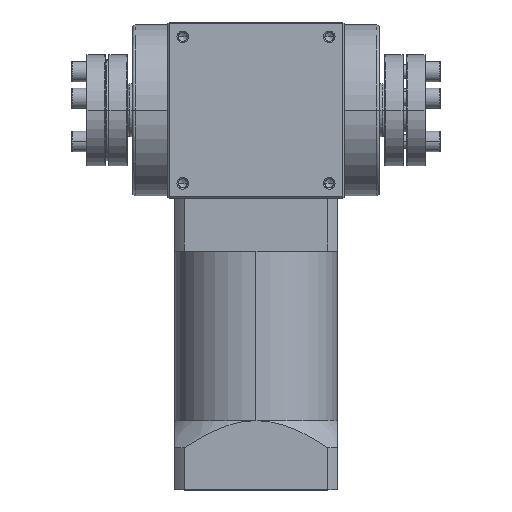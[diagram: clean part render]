
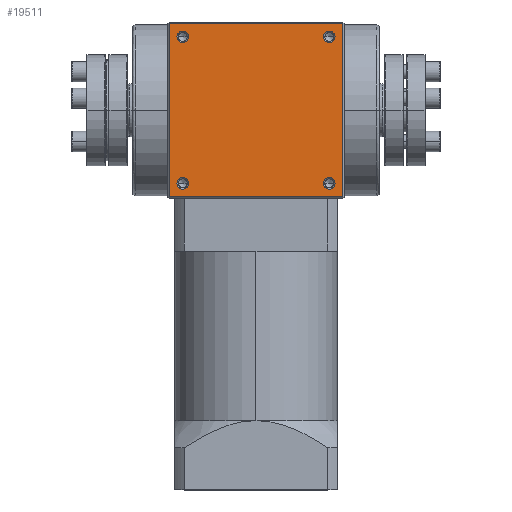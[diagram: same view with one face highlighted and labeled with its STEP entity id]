
A CAD part, top view. The second image highlights one B-rep face of the part: STEP entity #19511.
In plain terms, the highlighted planar face has unit normal (0, 0, 1).
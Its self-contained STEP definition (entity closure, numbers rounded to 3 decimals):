
#170 = CARTESIAN_POINT ( 'NONE',  ( -29.15, -27., 32.5 ) ) ;
#736 = DIRECTION ( 'NONE',  ( 1., 0., 0. ) ) ;
#776 = DIRECTION ( 'NONE',  ( 0., 0., 1. ) ) ;
#795 = LINE ( 'NONE', #6713, #18478 ) ;
#806 = VERTEX_POINT ( 'NONE', #27021 ) ;
#834 = CARTESIAN_POINT ( 'NONE',  ( -27., 27., 32.5 ) ) ;
#1423 = EDGE_CURVE ( 'NONE', #4218, #5649, #22301, .T. ) ;
#1425 = EDGE_CURVE ( 'NONE', #1783, #806, #8834, .T. ) ;
#1444 = DIRECTION ( 'NONE',  ( 0., -1., 0. ) ) ;
#1650 = ORIENTED_EDGE ( 'NONE', *, *, #24154, .F. ) ;
#1740 = EDGE_CURVE ( 'NONE', #22320, #26199, #30922, .T. ) ;
#1783 = VERTEX_POINT ( 'NONE', #1901 ) ;
#1901 = CARTESIAN_POINT ( 'NONE',  ( -29.15, 27., 32.5 ) ) ;
#1926 = CARTESIAN_POINT ( 'NONE',  ( 27., -27., 32.5 ) ) ;
#2052 = CARTESIAN_POINT ( 'NONE',  ( 32., 0., 32.5 ) ) ;
#2299 = CARTESIAN_POINT ( 'NONE',  ( 32., -32., 32.5 ) ) ;
#2522 = DIRECTION ( 'NONE',  ( 1., 0., 0. ) ) ;
#2626 = DIRECTION ( 'NONE',  ( 0., 0., 1. ) ) ;
#2735 = CARTESIAN_POINT ( 'NONE',  ( -27., -27., 32.5 ) ) ;
#2914 = ORIENTED_EDGE ( 'NONE', *, *, #1423, .F. ) ;
#3208 = ORIENTED_EDGE ( 'NONE', *, *, #27757, .F. ) ;
#3333 = DIRECTION ( 'NONE',  ( 0., 0., 1. ) ) ;
#3361 = ORIENTED_EDGE ( 'NONE', *, *, #4438, .T. ) ;
#3696 = ORIENTED_EDGE ( 'NONE', *, *, #11619, .F. ) ;
#3933 = EDGE_CURVE ( 'NONE', #20246, #5388, #28167, .T. ) ;
#4086 = FACE_BOUND ( 'NONE', #30316, .T. ) ;
#4218 = VERTEX_POINT ( 'NONE', #6801 ) ;
#4371 = DIRECTION ( 'NONE',  ( 1., 0., 0. ) ) ;
#4438 = EDGE_CURVE ( 'NONE', #16673, #5649, #28137, .T. ) ;
#4901 = VERTEX_POINT ( 'NONE', #4975 ) ;
#4931 = ORIENTED_EDGE ( 'NONE', *, *, #29933, .F. ) ;
#4975 = CARTESIAN_POINT ( 'NONE',  ( 24.85, 27., 32.5 ) ) ;
#5388 = VERTEX_POINT ( 'NONE', #27368 ) ;
#5601 = FACE_BOUND ( 'NONE', #24200, .T. ) ;
#5649 = VERTEX_POINT ( 'NONE', #2299 ) ;
#5836 = CIRCLE ( 'NONE', #7824, 2.15 ) ;
#5958 = CARTESIAN_POINT ( 'NONE',  ( 27., -27., 32.5 ) ) ;
#6016 = AXIS2_PLACEMENT_3D ( 'NONE', #13136, #27445, #29942 ) ;
#6713 = CARTESIAN_POINT ( 'NONE',  ( 0., 32., 32.5 ) ) ;
#6801 = CARTESIAN_POINT ( 'NONE',  ( 32., 32., 32.5 ) ) ;
#7426 = CIRCLE ( 'NONE', #17211, 2.15 ) ;
#7824 = AXIS2_PLACEMENT_3D ( 'NONE', #17716, #3333, #20153 ) ;
#8012 = AXIS2_PLACEMENT_3D ( 'NONE', #24583, #10222, #27035 ) ;
#8163 = EDGE_LOOP ( 'NONE', ( #12081, #3208 ) ) ;
#8411 = DIRECTION ( 'NONE',  ( 1., 0., 0. ) ) ;
#8834 = CIRCLE ( 'NONE', #23558, 2.15 ) ;
#9006 = VECTOR ( 'NONE', #10149, 1000. ) ;
#9162 = AXIS2_PLACEMENT_3D ( 'NONE', #28699, #14306, #31135 ) ;
#10027 = ORIENTED_EDGE ( 'NONE', *, *, #1425, .F. ) ;
#10149 = DIRECTION ( 'NONE',  ( 1., 0., 0. ) ) ;
#10222 = DIRECTION ( 'NONE',  ( 0., 0., 1. ) ) ;
#10495 = FACE_BOUND ( 'NONE', #16584, .T. ) ;
#10727 = PLANE ( 'NONE',  #6016 ) ;
#10981 = CARTESIAN_POINT ( 'NONE',  ( -32., -32., 32.5 ) ) ;
#11001 = DIRECTION ( 'NONE',  ( 0., 0., 1. ) ) ;
#11254 = FACE_OUTER_BOUND ( 'NONE', #19025, .T. ) ;
#11619 = EDGE_CURVE ( 'NONE', #4901, #26515, #17751, .T. ) ;
#11874 = CIRCLE ( 'NONE', #8012, 2.15 ) ;
#11978 = AXIS2_PLACEMENT_3D ( 'NONE', #1926, #18739, #4371 ) ;
#12081 = ORIENTED_EDGE ( 'NONE', *, *, #3933, .F. ) ;
#12676 = ORIENTED_EDGE ( 'NONE', *, *, #1740, .F. ) ;
#12733 = AXIS2_PLACEMENT_3D ( 'NONE', #2735, #2626, #2522 ) ;
#13136 = CARTESIAN_POINT ( 'NONE',  ( 0., 0., 32.5 ) ) ;
#13671 = LINE ( 'NONE', #22527, #17421 ) ;
#13844 = DIRECTION ( 'NONE',  ( 1., 0., 0. ) ) ;
#14306 = DIRECTION ( 'NONE',  ( 0., 0., 1. ) ) ;
#15165 = VECTOR ( 'NONE', #1444, 1000. ) ;
#16584 = EDGE_LOOP ( 'NONE', ( #24931, #3696 ) ) ;
#16673 = VERTEX_POINT ( 'NONE', #10981 ) ;
#17211 = AXIS2_PLACEMENT_3D ( 'NONE', #25367, #11001, #27803 ) ;
#17421 = VECTOR ( 'NONE', #29680, 1000. ) ;
#17716 = CARTESIAN_POINT ( 'NONE',  ( -27., -27., 32.5 ) ) ;
#17751 = CIRCLE ( 'NONE', #9162, 2.15 ) ;
#18478 = VECTOR ( 'NONE', #13844, 1000. ) ;
#18739 = DIRECTION ( 'NONE',  ( 0., 0., 1. ) ) ;
#18830 = CARTESIAN_POINT ( 'NONE',  ( 29.15, 27., 32.5 ) ) ;
#19025 = EDGE_LOOP ( 'NONE', ( #3361, #2914, #20464, #1650 ) ) ;
#19511 = ADVANCED_FACE ( 'NONE', ( #11254, #5601, #10495, #4086, #22502 ), #10727, .F. ) ;
#20153 = DIRECTION ( 'NONE',  ( 1., 0., 0. ) ) ;
#20246 = VERTEX_POINT ( 'NONE', #21960 ) ;
#20464 = ORIENTED_EDGE ( 'NONE', *, *, #25273, .F. ) ;
#21452 = CARTESIAN_POINT ( 'NONE',  ( -32., 32., 32.5 ) ) ;
#21960 = CARTESIAN_POINT ( 'NONE',  ( 29.15, -27., 32.5 ) ) ;
#22301 = LINE ( 'NONE', #2052, #15165 ) ;
#22320 = VERTEX_POINT ( 'NONE', #170 ) ;
#22502 = FACE_BOUND ( 'NONE', #8163, .T. ) ;
#22527 = CARTESIAN_POINT ( 'NONE',  ( -32., 0., 32.5 ) ) ;
#22693 = CARTESIAN_POINT ( 'NONE',  ( -24.85, -27., 32.5 ) ) ;
#22754 = DIRECTION ( 'NONE',  ( 0., 0., 1. ) ) ;
#23242 = CIRCLE ( 'NONE', #29553, 2.15 ) ;
#23558 = AXIS2_PLACEMENT_3D ( 'NONE', #834, #776, #736 ) ;
#23803 = VERTEX_POINT ( 'NONE', #21452 ) ;
#24154 = EDGE_CURVE ( 'NONE', #16673, #23803, #13671, .T. ) ;
#24200 = EDGE_LOOP ( 'NONE', ( #29059, #10027 ) ) ;
#24583 = CARTESIAN_POINT ( 'NONE',  ( 27., 27., 32.5 ) ) ;
#24931 = ORIENTED_EDGE ( 'NONE', *, *, #29232, .F. ) ;
#25273 = EDGE_CURVE ( 'NONE', #23803, #4218, #795, .T. ) ;
#25367 = CARTESIAN_POINT ( 'NONE',  ( -27., 27., 32.5 ) ) ;
#26199 = VERTEX_POINT ( 'NONE', #22693 ) ;
#26515 = VERTEX_POINT ( 'NONE', #18830 ) ;
#27021 = CARTESIAN_POINT ( 'NONE',  ( -24.85, 27., 32.5 ) ) ;
#27035 = DIRECTION ( 'NONE',  ( 1., 0., 0. ) ) ;
#27368 = CARTESIAN_POINT ( 'NONE',  ( 24.85, -27., 32.5 ) ) ;
#27445 = DIRECTION ( 'NONE',  ( 0., 0., -1. ) ) ;
#27757 = EDGE_CURVE ( 'NONE', #5388, #20246, #23242, .T. ) ;
#27803 = DIRECTION ( 'NONE',  ( 1., 0., 0. ) ) ;
#28137 = LINE ( 'NONE', #29371, #9006 ) ;
#28167 = CIRCLE ( 'NONE', #11978, 2.15 ) ;
#28699 = CARTESIAN_POINT ( 'NONE',  ( 27., 27., 32.5 ) ) ;
#28843 = EDGE_CURVE ( 'NONE', #806, #1783, #7426, .T. ) ;
#29059 = ORIENTED_EDGE ( 'NONE', *, *, #28843, .F. ) ;
#29232 = EDGE_CURVE ( 'NONE', #26515, #4901, #11874, .T. ) ;
#29371 = CARTESIAN_POINT ( 'NONE',  ( 0., -32., 32.5 ) ) ;
#29553 = AXIS2_PLACEMENT_3D ( 'NONE', #5958, #22754, #8411 ) ;
#29680 = DIRECTION ( 'NONE',  ( 0., 1., 0. ) ) ;
#29933 = EDGE_CURVE ( 'NONE', #26199, #22320, #5836, .T. ) ;
#29942 = DIRECTION ( 'NONE',  ( -1., 0., 0. ) ) ;
#30316 = EDGE_LOOP ( 'NONE', ( #4931, #12676 ) ) ;
#30922 = CIRCLE ( 'NONE', #12733, 2.15 ) ;
#31135 = DIRECTION ( 'NONE',  ( 1., 0., 0. ) ) ;
